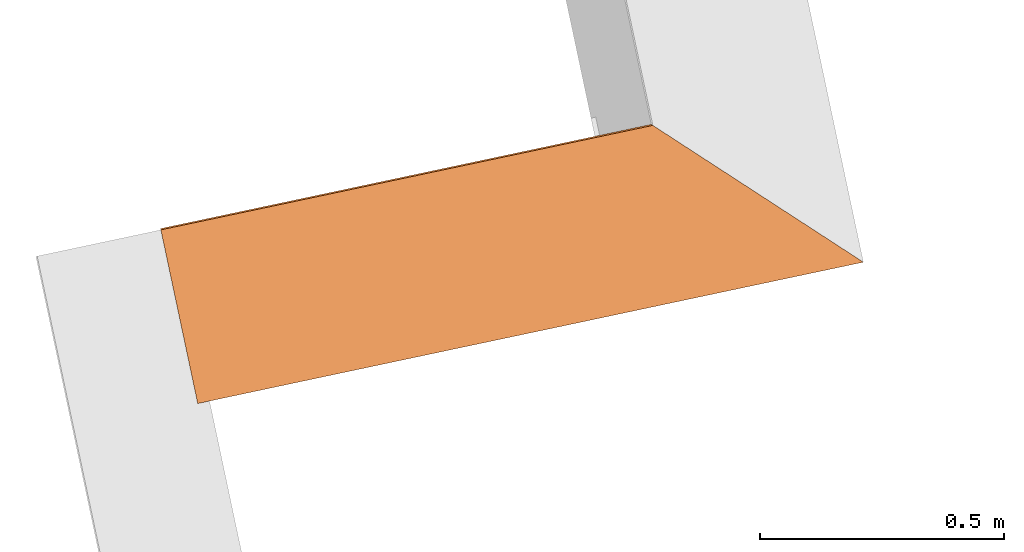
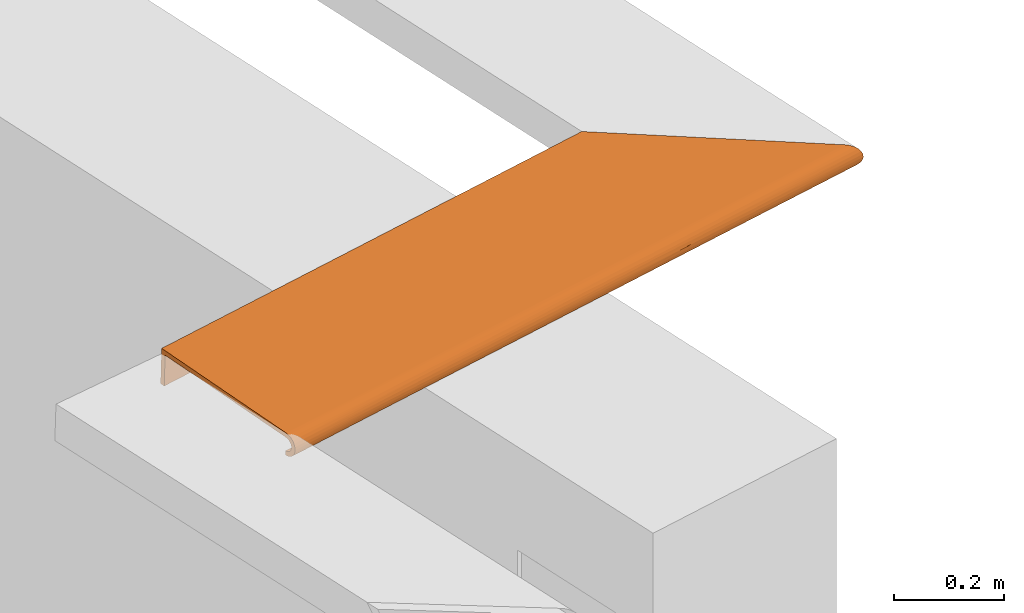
# One storey, part 19 of 22: 1 proxy.
"""IFC2X3 building model written with IfcOpenShell, lengths in centimetres."""

from ifc_helpers import new_model, entity, si_unit, converted_unit, derived_unit, direction, frame, origin, place, context, subcontext, project, spatial, faceted_brep, type_object, element, save


model = new_model("IFC2X3")

# Units and contexts
model_context = context("Model", 3, precision=0.001, world=origin(), true_north=direction((6.12303176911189e-17, 1.0)))
body_context = subcontext(model_context, "Body", "Model", "MODEL_VIEW")
ifc_project = project(units=[si_unit("LENGTHUNIT", "METRE", prefix="CENTI"), si_unit("AREAUNIT", "SQUARE_METRE"), si_unit("VOLUMEUNIT", "CUBIC_METRE"), converted_unit("PLANEANGLEUNIT", "DEGREE", entity("IfcRatioMeasure", 0.0174532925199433), si_unit("PLANEANGLEUNIT", "RADIAN"), dimensions=[0, 0, 0, 0, 0, 0, 0]), si_unit("MASSUNIT", "GRAM", prefix="KILO"), derived_unit("MASSDENSITYUNIT", [(si_unit("MASSUNIT", "GRAM", prefix="KILO"), 1), (si_unit("LENGTHUNIT", "METRE"), -3)]), derived_unit("IONCONCENTRATIONUNIT", [(si_unit("MASSUNIT", "GRAM", prefix="KILO"), 1), (si_unit("LENGTHUNIT", "METRE"), -3)]), derived_unit("MOMENTOFINERTIAUNIT", [(si_unit("LENGTHUNIT", "METRE"), 4)]), si_unit("TIMEUNIT", "SECOND"), si_unit("FREQUENCYUNIT", "HERTZ"), si_unit("THERMODYNAMICTEMPERATUREUNIT", "DEGREE_CELSIUS"), derived_unit("THERMALTRANSMITTANCEUNIT", [(si_unit("MASSUNIT", "GRAM", prefix="KILO"), 1), (si_unit("THERMODYNAMICTEMPERATUREUNIT", "KELVIN"), -1), (si_unit("TIMEUNIT", "SECOND"), -3)]), derived_unit("THERMALCONDUCTANCEUNIT", [(si_unit("MASSUNIT", "GRAM", prefix="KILO"), 1), (si_unit("THERMODYNAMICTEMPERATUREUNIT", "KELVIN"), -1), (si_unit("TIMEUNIT", "SECOND"), -3), (si_unit("LENGTHUNIT", "METRE"), 1)]), derived_unit("VOLUMETRICFLOWRATEUNIT", [(si_unit("LENGTHUNIT", "METRE"), 3), (si_unit("TIMEUNIT", "SECOND"), -1)]), derived_unit("MASSFLOWRATEUNIT", [(si_unit("MASSUNIT", "GRAM", prefix="KILO"), 1), (si_unit("TIMEUNIT", "SECOND"), -1)]), derived_unit("ROTATIONALFREQUENCYUNIT", [(si_unit("TIMEUNIT", "SECOND"), -1)]), si_unit("ELECTRICCURRENTUNIT", "AMPERE"), si_unit("ELECTRICVOLTAGEUNIT", "VOLT"), si_unit("POWERUNIT", "WATT"), si_unit("FORCEUNIT", "NEWTON", prefix="KILO"), si_unit("ILLUMINANCEUNIT", "LUX"), si_unit("LUMINOUSFLUXUNIT", "LUMEN"), si_unit("LUMINOUSINTENSITYUNIT", "CANDELA"), derived_unit("USERDEFINED", [(si_unit("MASSUNIT", "GRAM", prefix="KILO"), -1), (si_unit("LENGTHUNIT", "METRE"), -2), (si_unit("TIMEUNIT", "SECOND"), 3), (si_unit("LUMINOUSFLUXUNIT", "LUMEN"), 1)]), derived_unit("USERDEFINED", [(si_unit("MASSUNIT", "GRAM", prefix="KILO"), 1), (si_unit("TIMEUNIT", "SECOND"), -3), (si_unit("LENGTHUNIT", "METRE"), 3), (si_unit("ELECTRICCURRENTUNIT", "AMPERE"), -2)]), derived_unit("SOUNDPOWERUNIT", [(si_unit("MASSUNIT", "GRAM", prefix="KILO"), 1), (si_unit("TIMEUNIT", "SECOND"), -3), (si_unit("LENGTHUNIT", "METRE"), 2)]), derived_unit("SOUNDPRESSUREUNIT", [(si_unit("MASSUNIT", "GRAM", prefix="KILO"), 1), (si_unit("LENGTHUNIT", "METRE"), -1), (si_unit("TIMEUNIT", "SECOND"), -2)]), derived_unit("LINEARVELOCITYUNIT", [(si_unit("LENGTHUNIT", "METRE"), 1), (si_unit("TIMEUNIT", "SECOND"), -1)]), si_unit("PRESSUREUNIT", "PASCAL"), derived_unit("USERDEFINED", [(si_unit("MASSUNIT", "GRAM", prefix="KILO"), 1), (si_unit("LENGTHUNIT", "METRE"), -2), (si_unit("TIMEUNIT", "SECOND"), -2)]), derived_unit("LINEARFORCEUNIT", [(si_unit("MASSUNIT", "GRAM", prefix="KILO"), 1), (si_unit("TIMEUNIT", "SECOND"), -2)]), derived_unit("PLANARFORCEUNIT", [(si_unit("MASSUNIT", "GRAM", prefix="KILO"), 1), (si_unit("LENGTHUNIT", "METRE"), -1), (si_unit("TIMEUNIT", "SECOND"), -2)]), derived_unit("SPECIFICHEATCAPACITYUNIT", [(si_unit("THERMODYNAMICTEMPERATUREUNIT", "KELVIN"), -1), (si_unit("LENGTHUNIT", "METRE"), 2), (si_unit("TIMEUNIT", "SECOND"), -2)]), derived_unit("HEATINGVALUEUNIT", [(si_unit("LENGTHUNIT", "METRE"), 2), (si_unit("TIMEUNIT", "SECOND"), -2)]), derived_unit("VAPORPERMEABILITYUNIT", [(si_unit("LENGTHUNIT", "METRE"), -1), (si_unit("TIMEUNIT", "SECOND"), 1)]), derived_unit("DYNAMICVISCOSITYUNIT", [(si_unit("MASSUNIT", "GRAM", prefix="KILO"), 1), (si_unit("TIMEUNIT", "SECOND"), -1), (si_unit("LENGTHUNIT", "METRE"), -1)]), derived_unit("THERMALEXPANSIONCOEFFICIENTUNIT", [(si_unit("THERMODYNAMICTEMPERATUREUNIT", "KELVIN"), -1)]), derived_unit("MODULUSOFELASTICITYUNIT", [(si_unit("MASSUNIT", "GRAM", prefix="KILO"), 1), (si_unit("LENGTHUNIT", "METRE"), -1), (si_unit("TIMEUNIT", "SECOND"), -2)]), derived_unit("ISOTHERMALMOISTURECAPACITYUNIT", [(si_unit("LENGTHUNIT", "METRE"), 3), (si_unit("MASSUNIT", "GRAM", prefix="KILO"), -1)]), derived_unit("MOISTUREDIFFUSIVITYUNIT", [(si_unit("TIMEUNIT", "SECOND"), -1), (si_unit("LENGTHUNIT", "METRE"), 2)])], contexts=[model_context])

# Site, building, storey
site_placement = place(None, frame((14083.8920177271, -6853.25409548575, 6900.0), z_axis=(0.0, 0.0, 1.0), x_axis=(0.978188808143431, 0.207717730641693, 0.0)))
site = spatial("IfcSite", under=ifc_project, at=site_placement, Name="Surface", CompositionType="ELEMENT")
building_placement = place(site_placement, origin())
building = spatial("IfcBuilding", under=site, at=building_placement, CompositionType="ELEMENT")
storey_placement = place(building_placement, frame((0.0, 0.0, -17.0)))
storey = spatial("IfcBuildingStorey", under=building, at=storey_placement, Name="Rez de chaussée (SD)", CompositionType="ELEMENT", Elevation=-16.9999999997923)

# Proxy
building_element_proxy_type = type_object("IfcBuildingElementProxyType", Name="5036952", PredefinedType="NOTDEFINED")
proxy_placement = place(storey_placement, frame((-5950.81321908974, 15157.0267901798, 335.65533842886)))
element("IfcBuildingElementProxy", 1, at=proxy_placement, inside=storey, type_object=building_element_proxy_type, Name="5036952", context=body_context, shape_type="Brep", body=[
    faceted_brep([(139.189919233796, 0.450635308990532, 5.5186450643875), (139.418475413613, 0.222079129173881, 4.90734379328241), (139.481027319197, 0.159527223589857, 4.25771741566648), (139.373312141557, 0.2672424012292, 3.61403689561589), (139.10267049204, 0.537884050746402, 3.02016799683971), (138.687546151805, 0.953008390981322, 2.51658190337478), (138.156229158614, 1.48432538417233, 2.1375971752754), (137.544927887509, 2.09562665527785, 1.90904099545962), (136.895301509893, 2.74525303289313, 1.846489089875), (136.930201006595, 2.71035353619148, 2.84587991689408), (137.319976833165, 2.32057770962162, 2.88341106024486), (137.686757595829, 1.95379694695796, 3.02054476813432), (138.005547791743, 1.63500675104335, 3.24793560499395), (138.254622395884, 1.38593214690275, 3.5500872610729), (138.417007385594, 1.22354715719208, 3.90640860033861), (138.481636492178, 1.15891805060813, 4.292616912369), (138.444105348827, 1.19644919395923, 4.68239273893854), (138.306971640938, 1.33358290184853, 5.04917350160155), (138.079580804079, 1.56097373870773, 5.36796369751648), (137.777429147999, 1.86312539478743, 5.61703830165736), (137.421107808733, 2.21944673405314, 5.77942329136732), (137.034899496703, 2.60565504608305, 5.84405239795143), (104.055002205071, 35.5855523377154, 6.99573578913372), (103.810705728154, 35.8298488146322, 0.0), (102.811314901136, 36.8292396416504, 0.0348994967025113), (103.045861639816, 36.5946929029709, 6.75143931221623), (103.090510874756, 36.5500436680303, 8.03002611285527), (137.069798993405, 2.57075554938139, 6.84344322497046), (137.713479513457, 1.92707502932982, 6.73572804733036), (138.307348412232, 1.33320613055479, 6.46508639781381), (138.810934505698, 0.829620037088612, 6.049962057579), (0.0, 35.8298488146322, 0.0), (0.0, 35.5855523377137, 6.99573578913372), (0.0, 2.60565504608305, 5.84405239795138), (0.0, 2.21944673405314, 5.77942329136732), (0.0, 1.86312539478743, 5.61703830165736), (0.0, 1.56097373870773, 5.36796369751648), (0.0, 1.33358290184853, 5.04917350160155), (0.0, 1.19644919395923, 4.68239273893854), (0.0, 1.15891805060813, 4.292616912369), (0.0, 1.22354715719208, 3.90640860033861), (0.0, 1.38593214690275, 3.5500872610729), (0.0, 1.63500675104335, 3.24793560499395), (0.0, 1.95379694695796, 3.02054476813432), (0.0, 2.32057770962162, 2.88341106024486), (0.0, 2.71035353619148, 2.84587991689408), (0.0, 2.74525303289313, 1.846489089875), (0.0, 2.09562665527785, 1.90904099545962), (0.0, 1.48432538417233, 2.1375971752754), (0.0, 0.953008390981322, 2.51658190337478), (0.0, 0.537884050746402, 3.02016799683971), (0.0, 0.2672424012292, 3.61403689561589), (0.0, 0.159527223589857, 4.25771741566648), (0.0, 0.222079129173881, 4.90734379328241), (0.0, 0.450635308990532, 5.5186450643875), (0.0, 0.829620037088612, 6.049962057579), (0.0, 1.33320613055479, 6.46508639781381), (0.0, 1.92707502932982, 6.73572804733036), (0.0, 2.57075554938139, 6.84344322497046), (0.0, 36.5500436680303, 8.03002611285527), (0.0, 36.5946929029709, 6.75143931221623), (0.0, 36.8292396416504, 0.0348994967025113), (109.987820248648, 2.60565504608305, 5.84405239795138), (82.9416652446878, 2.60565504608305, 5.84405239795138), (68.5169876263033, 2.60565504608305, 5.84405239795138), (54.0932342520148, 2.60565504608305, 5.84405239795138), (27.0461550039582, 2.60565504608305, 5.84405239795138), (34.9172327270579, 2.57075554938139, 6.84344322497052), (69.8341798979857, 2.57075554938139, 6.84344322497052), (103.451846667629, 2.57075554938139, 6.84344322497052), (20.6405121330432, 1.62127118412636, 6.61986933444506), (105.502427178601, 0.616066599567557, 5.78735669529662), (87.1747204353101, 0.36464630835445, 5.34020942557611), (114.586627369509, 0.314538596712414, 5.21569489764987), (113.821954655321, 1.05912757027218, 6.26683848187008), (20.711110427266, 2.14441164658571, 6.7916419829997), (33.3999643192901, 0.622715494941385, 5.7967235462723), (24.8214859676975, 0.316323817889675, 5.22048461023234), (114.162577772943, 0.723047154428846, 2.76194977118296), (115.201638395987, 1.19717349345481, 2.31617997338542), (117.362231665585, 1.61118534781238, 6.6152458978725), (51.4027157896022, 0.951908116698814, 6.1723237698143), (24.8214859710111, 1.06780874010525, 6.27402761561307), (23.3390950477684, 0.16951379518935, 4.58458053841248), (41.4746654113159, 2.0933906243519, 6.78037400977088), (116.849978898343, 2.1317395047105, 6.78894761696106), (17.0000098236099, 0.728942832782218, 2.75477060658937), (84.9494374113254, 1.85267975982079, 1.97822738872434), (66.7283752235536, 2.12267467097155, 1.90295424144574), (93.9422149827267, 2.28771458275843, 1.87254112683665), (95.384530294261, 2.08977284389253, 6.77953244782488), (105.692307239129, 0.379706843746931, 3.3157136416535), (59.5181401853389, 0.321911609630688, 5.23528687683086), (76.0986817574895, 0.205018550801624, 4.82752284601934), (51.402715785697, 0.513405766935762, 5.62976075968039), (114.708401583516, 0.191893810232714, 3.93472342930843), (24.5058076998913, 0.383101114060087, 3.30823305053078), (32.1228108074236, 0.192290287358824, 3.93234714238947), (47.0285714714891, 0.321291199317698, 3.45627502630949), (38.6757787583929, 0.72894283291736, 2.75477060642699), (26.3515280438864, 1.20624690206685, 2.30967736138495), (20.6405121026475, 1.78248583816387, 2.00328568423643), (20.7111104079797, 2.31633421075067, 1.86842389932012), (41.4746653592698, 2.26465145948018, 1.87610537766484), (45.2752307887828, 1.78248583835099, 2.0032856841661), (79.5639483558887, 1.07085617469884, 6.27653568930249), (65.6107224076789, 1.42041906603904, 6.51715003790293), (55.6926939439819, 1.15081066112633, 2.35038164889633), (106.174436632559, 1.76609656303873, 2.00947892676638), (54.2442732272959, 0.169513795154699, 4.58458053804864), (87.4238012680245, 0.218038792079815, 3.80038525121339), (120.855580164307, 0.169413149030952, 4.58353297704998), (34.9166628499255, 2.74525303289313, 1.84648908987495), (116.74668074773, 2.32201812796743, 1.86764637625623), (59.9765467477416, 0.195279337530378, 3.91486639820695), (69.5513352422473, 0.383101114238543, 3.30823305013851), (92.7210860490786, 1.59917610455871, 6.60966986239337), (69.2779323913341, 1.91140906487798, 6.73088224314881), (63.3174798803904, 0.685103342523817, 2.80949820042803), (87.810806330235, 0.627553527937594, 2.88644989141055), (67.1043885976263, 1.58018554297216, 2.0892386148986), (45.2752308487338, 1.6212711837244, 6.61986933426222), (87.4140769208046, 0.577342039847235, 5.73091153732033), (97.9082093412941, 0.169289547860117, 4.582240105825), (87.5947416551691, 0.353158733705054, 3.37662378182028), (85.1162814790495, 1.18546085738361, 2.32466523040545), (69.4054672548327, 0.622715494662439, 5.79672354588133), (79.1238609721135, 0.158480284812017, 4.29618356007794), (69.8350012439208, 2.74525303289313, 1.84648908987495), (85.9068199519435, 2.74525303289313, 1.84648908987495), (101.978638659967, 2.74525303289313, 1.84648908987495), (27.0466433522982, 2.71035353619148, 2.84587991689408), (54.0931272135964, 2.71035353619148, 2.84587991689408), (68.4650207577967, 2.71035353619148, 2.84587991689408), (82.8369143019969, 2.71035353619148, 2.84587991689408), (109.883557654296, 2.71035353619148, 2.84587991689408), (119.378195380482, 1.78261858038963, 3.12689396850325), (87.7566700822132, 2.24864110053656, 2.90190629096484), (68.4651005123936, 2.2307288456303, 2.90710813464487), (91.7471757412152, 1.96340082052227, 3.01548279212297), (90.7794767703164, 2.03066703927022, 5.7074814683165), (97.998853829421, 1.69548896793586, 5.49542878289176), (78.6307776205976, 1.77206743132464, 5.55538586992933), (121.393027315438, 1.29203194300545, 3.72519237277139), (22.175870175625, 1.78694985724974, 3.12379288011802), (15.9880719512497, 2.13269321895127, 2.93995787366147), (32.1261376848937, 2.42199259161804, 2.86364968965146), (35.0700430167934, 2.13269321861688, 2.93995787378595), (50.4011379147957, 2.33242202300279, 2.8807270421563), (119.728088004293, 1.17839559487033, 4.0984745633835), (114.324297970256, 1.16483165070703, 4.48791882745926), (20.4717801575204, 1.70388696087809, 5.50240303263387), (13.2731905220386, 1.4368310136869, 5.21602059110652), (18.4272079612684, 1.50056741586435, 3.3908488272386), (76.4114514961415, 1.28213741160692, 4.94245283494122), (62.6035215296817, 1.17492182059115, 4.5696134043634), (60.101544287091, 1.2859278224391, 4.95110654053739), (16.0427571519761, 2.45300224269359, 2.85904080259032), (120.964733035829, 2.4492307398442, 2.85956600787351), (104.70154451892, 2.41922339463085, 2.86409354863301), (83.3524567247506, 1.48459825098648, 5.27937413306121), (123.333611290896, 2.12829113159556, 2.94161161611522), (15.9880719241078, 2.03596442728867, 5.70990806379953), (16.0427571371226, 2.34984870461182, 5.81297165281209), (53.837679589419, 1.96310960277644, 3.01563498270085), (119.677601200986, 1.25218519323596, 4.86810348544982), (114.211125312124, 1.43397230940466, 5.21199886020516), (24.7721916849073, 1.29306238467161, 3.72292629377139), (44.0464988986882, 1.26464630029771, 4.90044208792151), (36.9559102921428, 1.16490999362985, 4.4887347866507), (115.366203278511, 1.49731099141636, 3.39481297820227), (75.7295481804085, 2.3238781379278, 5.8072792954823), (68.5174497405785, 2.05409271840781, 5.71802508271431), (51.4557333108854, 2.23460489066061, 5.7839703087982), (35.0700429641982, 2.03596442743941, 5.7099080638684), (32.1261376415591, 2.31923609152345, 5.80621086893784), (113.602560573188, 2.02893271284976, 5.70668160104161), (93.2454718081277, 2.34051746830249, 5.81098188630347), (82.8809458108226, 1.44626855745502, 3.46083013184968), (60.3211759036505, 1.31910642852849, 3.66868772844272), (81.3913211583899, 1.26127009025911, 3.79803510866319), (18.95615490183, 1.17857588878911, 4.09739474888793), (17.0099467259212, 1.16490999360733, 4.48873478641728), (119.322358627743, 1.6999674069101, 5.49916082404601), (44.0823292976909, 1.19375288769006, 4.01943915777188), (69.2085036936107, 1.17857588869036, 4.09739474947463), (30.1456758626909, 1.43683101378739, 5.21602059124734), (20.4717801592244, 1.25299600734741, 4.87027722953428), (101.504306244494, 1.29082713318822, 3.72785464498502), (94.4631070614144, 1.1668609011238, 4.18220439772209), (44.6706772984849, 1.68330482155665, 5.48512445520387), (120.333854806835, 2.32833896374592, 5.80829140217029), (42.5850306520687, 1.3023474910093, 3.70294229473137), (98.0033018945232, 1.25124952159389, 4.86558215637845), (83.6305369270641, 1.1774684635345, 4.58582641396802), (97.8759230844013, 1.39179393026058, 5.14914979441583), (99.7277649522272, 1.6788264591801, 3.20865160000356), (99.1730227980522, 1.46715986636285, 3.43288636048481), (105.747106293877, 2.12283481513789, 2.94368330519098), (40.6803923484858, 1.75314030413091, 3.14862959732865), (41.7472308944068, 1.50056741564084, 3.39084882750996), (52.481704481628, 1.92838516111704, 5.65555988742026), (46.0929714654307, 1.47287929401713, 5.26446533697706), (61.9433417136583, 1.70277623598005, 5.50148652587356), (79.8719989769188, 1.77339035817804, 3.13357927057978), (51.7183204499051, 1.15834582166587, 4.3129587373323), (98.3954862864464, 1.16348462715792, 4.4730714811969), (63.1999928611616, 1.56797838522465, 3.31450823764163), (62.0402670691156, 1.43683101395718, 5.21602059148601)], [[[0, 1, 2, 3, 4, 5, 6, 7, 8, 9, 10, 11, 12, 13, 14, 15, 16, 17, 18, 19, 20, 21, 22, 23, 24, 25, 26, 27, 28, 29, 30]], [[31, 32, 33, 34, 35, 36, 37, 38, 39, 40, 41, 42, 43, 44, 45, 46, 47, 48, 49, 50, 51, 52, 53, 54, 55, 56, 57, 58, 59, 60, 61]], [[22, 21, 62, 63, 64, 65, 66, 33, 32]], [[26, 25, 24, 61, 60, 59]], [[26, 59, 58, 67, 68, 69, 27]], [[57, 56, 70]], [[71, 72, 73]], [[30, 29, 74]], [[57, 70, 75]], [[55, 54, 76]], [[54, 53, 77]], [[78, 79, 5]], [[28, 80, 29]], [[76, 81, 82]], [[83, 77, 53]], [[54, 77, 76]], [[67, 75, 84]], [[69, 85, 27]], [[82, 56, 55]], [[50, 49, 86]], [[71, 30, 74]], [[87, 88, 89]], [[0, 73, 1]], [[80, 85, 90]], [[3, 91, 4]], [[92, 93, 72]], [[0, 30, 71]], [[77, 92, 94]], [[3, 2, 95]], [[96, 97, 51]], [[98, 97, 96]], [[0, 71, 73]], [[99, 86, 100]], [[101, 102, 103]], [[103, 88, 104]], [[81, 105, 106]], [[97, 52, 51]], [[107, 99, 100]], [[108, 7, 6]], [[77, 83, 109]], [[3, 95, 91]], [[91, 95, 110]], [[111, 2, 1]], [[105, 71, 74]], [[46, 112, 102]], [[8, 7, 113]], [[5, 4, 78]], [[82, 55, 76]], [[91, 78, 4]], [[5, 79, 6]], [[114, 98, 115]], [[116, 90, 117]], [[49, 48, 100]], [[118, 119, 115]], [[48, 47, 101]], [[91, 119, 78]], [[51, 50, 96]], [[114, 115, 110]], [[104, 120, 107]], [[108, 89, 113]], [[101, 100, 48]], [[57, 75, 58]], [[80, 90, 116]], [[101, 103, 104]], [[88, 120, 104]], [[53, 52, 83]], [[109, 93, 92]], [[76, 94, 81]], [[70, 82, 121]], [[80, 74, 29]], [[74, 116, 105]], [[72, 71, 122]], [[111, 73, 123]], [[111, 95, 2]], [[124, 110, 115]], [[91, 124, 119]], [[79, 125, 108]], [[86, 96, 50]], [[99, 118, 98]], [[52, 97, 83]], [[109, 83, 97]], [[104, 107, 100]], [[125, 119, 118]], [[72, 126, 92]], [[123, 73, 72]], [[94, 92, 126]], [[77, 109, 92]], [[95, 123, 110]], [[127, 110, 123]], [[127, 123, 93]], [[109, 97, 114]], [[125, 79, 78]], [[108, 6, 79]], [[105, 81, 126]], [[121, 82, 81]], [[126, 122, 105]], [[116, 117, 106]], [[98, 118, 115]], [[125, 78, 119]], [[82, 70, 56]], [[84, 75, 70]], [[85, 80, 28]], [[74, 80, 116]], [[102, 101, 47]], [[100, 101, 104]], [[99, 107, 118]], [[125, 118, 107]], [[84, 70, 121]], [[58, 75, 67]], [[27, 85, 28]], [[85, 69, 90]], [[69, 68, 90]], [[117, 121, 106]], [[90, 68, 117]], [[84, 68, 67]], [[46, 102, 47]], [[102, 112, 103]], [[121, 117, 84]], [[68, 84, 117]], [[112, 128, 103]], [[88, 103, 128]], [[88, 128, 129]], [[87, 125, 120]], [[87, 120, 88]], [[125, 107, 120]], [[129, 89, 88]], [[125, 87, 108]], [[129, 130, 89]], [[113, 89, 130]], [[108, 87, 89]], [[8, 113, 130]], [[108, 113, 7]], [[73, 111, 1]], [[95, 111, 123]], [[127, 109, 114]], [[72, 93, 123]], [[109, 127, 93]], [[114, 110, 127]], [[97, 98, 114]], [[99, 98, 96]], [[81, 106, 121]], [[116, 106, 105]], [[100, 86, 49]], [[96, 86, 99]], [[105, 122, 71]], [[126, 72, 122]], [[81, 94, 126]], [[77, 94, 76]], [[119, 124, 115]], [[91, 110, 124]], [[8, 130, 129, 128, 112, 46, 45, 131, 132, 133, 134, 135, 9]], [[12, 11, 136]], [[137, 138, 139]], [[140, 141, 142]], [[143, 14, 13]], [[144, 145, 43]], [[42, 144, 43]], [[146, 147, 148]], [[149, 150, 15]], [[151, 152, 36]], [[144, 42, 153]], [[16, 15, 150]], [[154, 155, 156]], [[157, 131, 45]], [[158, 135, 159]], [[141, 160, 142]], [[11, 10, 161]], [[162, 34, 163]], [[146, 157, 145]], [[147, 164, 148]], [[162, 35, 34]], [[43, 145, 44]], [[17, 165, 166]], [[40, 167, 41]], [[158, 161, 10]], [[165, 17, 16]], [[168, 155, 169]], [[12, 170, 13]], [[166, 18, 17]], [[171, 172, 173]], [[173, 174, 175]], [[176, 20, 19]], [[177, 171, 63]], [[178, 179, 180]], [[163, 66, 175]], [[167, 40, 181]], [[38, 182, 39]], [[176, 183, 141]], [[42, 41, 153]], [[133, 138, 134]], [[19, 18, 183]], [[179, 184, 185]], [[152, 186, 187]], [[152, 37, 36]], [[188, 189, 149]], [[36, 35, 151]], [[12, 136, 170]], [[169, 184, 181]], [[18, 166, 183]], [[187, 186, 168]], [[170, 143, 13]], [[187, 38, 37]], [[174, 190, 151]], [[191, 62, 21]], [[167, 184, 192]], [[39, 181, 40]], [[193, 194, 154]], [[14, 149, 15]], [[160, 141, 195]], [[150, 193, 165]], [[176, 191, 20]], [[140, 171, 177]], [[170, 196, 197]], [[136, 198, 196]], [[164, 147, 199]], [[147, 146, 145]], [[167, 200, 153]], [[172, 201, 173]], [[33, 163, 34]], [[171, 140, 172]], [[38, 187, 182]], [[9, 158, 10]], [[169, 187, 168]], [[186, 151, 190]], [[174, 151, 162]], [[190, 202, 186]], [[203, 172, 142]], [[137, 159, 134]], [[164, 204, 138]], [[167, 181, 184]], [[169, 181, 182]], [[179, 200, 192]], [[205, 155, 185]], [[150, 149, 189]], [[188, 149, 143]], [[194, 193, 206]], [[180, 185, 189]], [[166, 165, 193]], [[165, 16, 150]], [[155, 205, 169]], [[202, 156, 168]], [[189, 185, 194]], [[154, 195, 193]], [[19, 183, 176]], [[141, 183, 166]], [[170, 136, 196]], [[198, 136, 161]], [[144, 153, 200]], [[153, 41, 167]], [[207, 178, 204]], [[196, 204, 178]], [[178, 197, 196]], [[139, 204, 196]], [[188, 178, 180]], [[200, 179, 207]], [[14, 143, 149]], [[188, 143, 170]], [[39, 182, 181]], [[169, 182, 187]], [[44, 145, 157]], [[147, 145, 144]], [[35, 162, 151]], [[162, 163, 175]], [[44, 157, 45]], [[146, 131, 157]], [[174, 162, 175]], [[66, 163, 33]], [[146, 132, 131]], [[164, 138, 148]], [[148, 132, 146]], [[133, 132, 148]], [[204, 164, 207]], [[200, 199, 144]], [[174, 201, 190]], [[175, 66, 65]], [[64, 63, 171]], [[173, 175, 65]], [[64, 171, 173]], [[64, 173, 65]], [[172, 140, 142]], [[140, 176, 141]], [[177, 191, 176]], [[140, 177, 176]], [[177, 63, 62]], [[203, 201, 172]], [[160, 203, 142]], [[208, 160, 154]], [[193, 195, 166]], [[208, 154, 156]], [[155, 154, 194]], [[155, 194, 185]], [[189, 194, 206]], [[178, 207, 179]], [[199, 200, 207]], [[173, 201, 174]], [[203, 190, 201]], [[190, 203, 202]], [[208, 203, 160]], [[11, 161, 136]], [[158, 159, 198]], [[161, 158, 198]], [[135, 158, 9]], [[198, 159, 137]], [[159, 135, 134]], [[198, 137, 139]], [[138, 133, 148]], [[198, 139, 196]], [[204, 139, 138]], [[188, 180, 189]], [[185, 180, 179]], [[37, 152, 187]], [[186, 152, 151]], [[20, 191, 21]], [[62, 191, 177]], [[186, 202, 168]], [[208, 202, 203]], [[137, 134, 138]], [[205, 184, 169]], [[184, 205, 185]], [[167, 192, 200]], [[192, 184, 179]], [[197, 188, 170]], [[197, 178, 188]], [[144, 199, 147]], [[164, 199, 207]], [[166, 195, 141]], [[160, 195, 154]], [[208, 156, 202]], [[168, 156, 155]], [[206, 150, 189]], [[150, 206, 193]], [[23, 22, 32, 31]], [[24, 23, 31, 61]]]),
])

save(model, "model.ifc")
